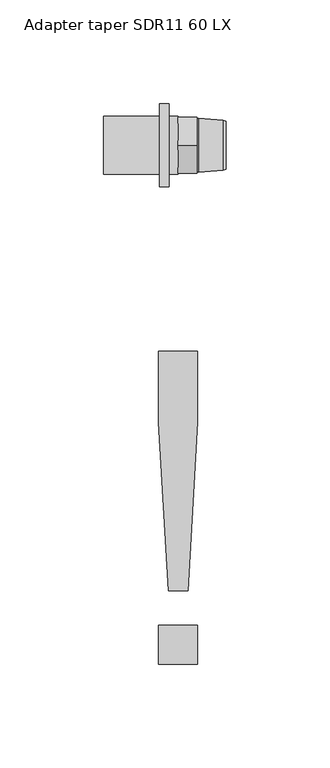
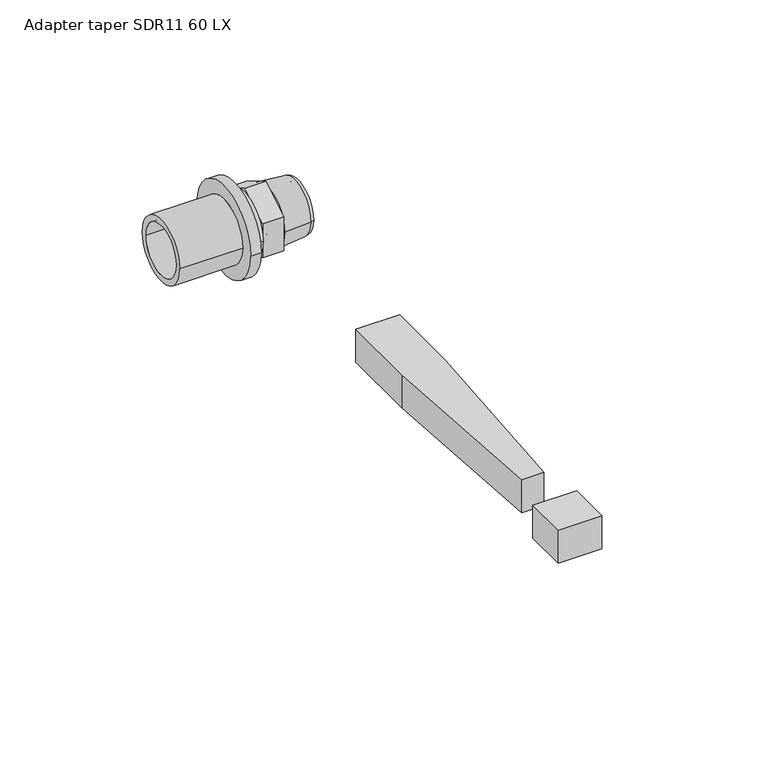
"""IFC4 building model written with IfcOpenShell, lengths in millimetres: pipe fitting geometry, Adapter taper SDR11 LX 60 Grad : Adapter taper SDR11 60 LX."""

from ifc_helpers import new_model, si_unit, frame, origin, origin_with_axes, place, context, project, spatial, polyline, circle_curve, outline, extrude, source, transform, mapped, element, save
from ifc_brep_helpers import plane_surface, cylinder_surface, revolved_surface, advanced_brep


def adapter_taper_sdr11_60_lx_681f6ff0(model_context):
    return source(origin(), model_context, "Body", "SolidModel", [
        extrude(outline(polyline([(-4.7088895, -214.6833285), (-9.4177791, -133.3446193), (-9.4177791, -99.3155348), (9.4177791, -99.3155348), (9.4177791, -133.3446193), (4.7088895, -214.6833285), (-4.7088895, -214.6833285)])), origin_with_axes(), (0.0, 0.0, 1.0), 15.0),
        extrude(outline(polyline([(-9.4177791, -250.0), (-9.4177791, -231.1644418), (9.4177791, -231.1644418), (9.4177791, -250.0), (-9.4177791, -250.0)])), origin_with_axes(), (0.0, 0.0, 1.0), 15.0),
        advanced_brep(
        [(-8.9, 13.95, 0.0), (-8.9, -13.95, 0.0), (-35.9, -13.95, 0.0), (-35.9, 13.95, 0.0), (-4.4, 20.0, 0.0), (-4.4, -20.0, 0.0), (-8.9, -20.0, 0.0), (-8.9, 20.0, 0.0), (0.0, 13.95, 0.0), (0.0, -13.95, 0.0), (-4.4, -13.95, 0.0), (-4.4, 13.95, 0.0), (-35.9, 11.2, 0.0), (-35.9, -11.2, 0.0), (0.0, -11.2, 0.0), (0.0, 11.2, 0.0)],
        [
            (0, 1, circle_curve(frame((-8.9, 0.0, 0.0), z_axis=(-1.0, 0.0, 0.0), x_axis=(0.0, -1.0, 0.0)), 13.95)),
            (1, 2),
            (2, 3, circle_curve(frame((-35.9, 0.0, 0.0), z_axis=(1.0, 0.0, 0.0), x_axis=(0.0, -1.0, 0.0)), 13.95)),
            (3, 0),
            (4, 5, circle_curve(frame((-4.4, 0.0, 0.0), z_axis=(-1.0, 0.0, 0.0), x_axis=(0.0, -1.0, 0.0)), 20.0)),
            (5, 6),
            (6, 7, circle_curve(frame((-8.9, 0.0, 0.0), z_axis=(1.0, 0.0, 0.0), x_axis=(0.0, -1.0, 0.0)), 20.0)),
            (7, 4),
            (8, 9, circle_curve(frame((0.0, 0.0, 0.0), z_axis=(-1.0, 0.0, 0.0), x_axis=(0.0, -1.0, 0.0)), 13.95)),
            (9, 10),
            (10, 11, circle_curve(frame((-4.4, 0.0, 0.0), z_axis=(1.0, 0.0, 0.0), x_axis=(0.0, -1.0, 0.0)), 13.95)),
            (11, 8),
            (12, 13, circle_curve(frame((-35.9, 0.0, 0.0), z_axis=(-1.0, 0.0, 0.0), x_axis=(0.0, -1.0, 0.0)), 11.2)),
            (13, 14),
            (14, 15, circle_curve(frame((0.0, 0.0, 0.0), z_axis=(1.0, 0.0, 0.0), x_axis=(0.0, -1.0, 0.0)), 11.2)),
            (15, 12),
            (2, 3, circle_curve(frame((-35.9, 0.0, 0.0), z_axis=(-1.0, 0.0, 0.0), x_axis=(0.0, 1.0, 0.0)), 13.95)),
            (12, 13, circle_curve(frame((-35.9, 0.0, 0.0), z_axis=(1.0, 0.0, 0.0), x_axis=(0.0, 1.0, 0.0)), 11.2)),
            (1, 0, circle_curve(frame((-8.9, 0.0, 0.0), z_axis=(-1.0, 0.0, 0.0), x_axis=(0.0, 1.0, 0.0)), 13.95)),
            (6, 7, circle_curve(frame((-8.9, 0.0, 0.0), z_axis=(-1.0, 0.0, 0.0), x_axis=(0.0, 1.0, 0.0)), 20.0)),
            (5, 4, circle_curve(frame((-4.4, 0.0, 0.0), z_axis=(-1.0, 0.0, 0.0), x_axis=(0.0, 1.0, 0.0)), 20.0)),
            (10, 11, circle_curve(frame((-4.4, 0.0, 0.0), z_axis=(-1.0, 0.0, 0.0), x_axis=(0.0, 1.0, 0.0)), 13.95)),
            (9, 8, circle_curve(frame((0.0, 0.0, 0.0), z_axis=(-1.0, 0.0, 0.0), x_axis=(0.0, 1.0, 0.0)), 13.95)),
            (14, 15, circle_curve(frame((0.0, 0.0, 0.0), z_axis=(-1.0, 0.0, 0.0), x_axis=(0.0, 1.0, 0.0)), 11.2)),
        ],
        [
            cylinder_surface(frame((0.0, 0.0, 0.0), z_axis=(1.0, 0.0, 0.0), x_axis=(0.0, -1.0, 0.0)), 13.95),
            cylinder_surface(frame((0.0, 0.0, 0.0), z_axis=(1.0, 0.0, 0.0), x_axis=(0.0, -1.0, 0.0)), 20.0),
            revolved_surface(polyline([(0.0, -11.2, 0.0), (-35.9, -11.2, 0.0)]), (0.0, 0.0, 0.0), (1.0, 0.0, 0.0)),
            plane_surface(frame((-35.9, 0.0, 0.0), z_axis=(-1.0, 0.0, 0.0), x_axis=(0.0, 1.0, 0.0))),
            cylinder_surface(frame((0.0, 0.0, 0.0), z_axis=(1.0, 0.0, 0.0), x_axis=(0.0, 1.0, 0.0)), 13.95),
            plane_surface(frame((-8.9, 0.0, 0.0), z_axis=(-1.0, 0.0, 0.0), x_axis=(0.0, 1.0, 0.0))),
            cylinder_surface(frame((0.0, 0.0, 0.0), z_axis=(1.0, 0.0, 0.0), x_axis=(0.0, 1.0, 0.0)), 20.0),
            plane_surface(frame((-4.4, 0.0, 0.0), z_axis=(1.0, 0.0, 0.0), x_axis=(0.0, 1.0, 0.0))),
            plane_surface(frame((0.0, 0.0, 0.0), z_axis=(1.0, 0.0, 0.0), x_axis=(0.0, 1.0, 0.0))),
            revolved_surface(polyline([(0.0, 11.2, 0.0), (-35.9, 11.2, 0.0)]), (0.0, 0.0, 0.0), (1.0, 0.0, 0.0)),
        ],
        [
            (0, [[1, 2, 3, 4]]),
            (1, [[5, 6, 7, 8]]),
            (0, [[9, 10, 11, 12]]),
            (2, [[13, 14, 15, 16]]),
            (3, [[17, -3], [18, -13]]),
            (4, [[19, -4, -17, -2]]),
            (5, [[20, -7], [-19, -1]]),
            (6, [[21, -8, -20, -6]]),
            (7, [[-21, -5], [22, -11]]),
            (4, [[23, -12, -22, -10]]),
            (8, [[-23, -9], [24, -15]]),
            (9, [[-18, -16, -24, -14]]),
        ],
    ),
        advanced_brep(
        [(10.2032803, 9.0, 0.0), (10.2032803, -9.0, 0.0), (23.1, -9.0, 0.0), (23.1, 9.0, 0.0), (9.1, 7.8967197, 0.0), (9.1, -7.8967197, 0.0), (9.8406902, 13.0, 0.0), (9.8406902, -13.0, 0.0), (9.1, -12.5, 0.0), (9.1, 12.5, 0.0), (21.6000007, 12.0, 0.0), (21.6000007, -12.0, 0.0), (23.1, 11.5, 0.0), (23.1, -11.5, 0.0)],
        [
            (0, 1, circle_curve(frame((10.2032803, 0.0, 0.0), z_axis=(-1.0, 0.0, 0.0), x_axis=(0.0, -1.0, 0.0)), 9.0)),
            (1, 2),
            (2, 3, circle_curve(frame((23.1, 0.0, 0.0), z_axis=(1.0, 0.0, 0.0), x_axis=(0.0, -1.0, 0.0)), 9.0)),
            (3, 0),
            (4, 5, circle_curve(frame((9.1, 0.0, 0.0), z_axis=(-1.0, 0.0, 0.0), x_axis=(0.0, -1.0, 0.0)), 7.8967197)),
            (5, 1),
            (0, 4),
            (6, 7, circle_curve(frame((9.8406902, 0.0, 0.0), z_axis=(-1.0, 0.0, 0.0), x_axis=(0.0, -1.0, 0.0)), 13.0)),
            (7, 8),
            (8, 9, circle_curve(frame((9.1, 0.0, 0.0), z_axis=(1.0, 0.0, 0.0), x_axis=(0.0, -1.0, 0.0)), 12.5)),
            (9, 6),
            (10, 11, circle_curve(frame((21.6000007, 0.0, 0.0), z_axis=(-1.0, 0.0, 0.0), x_axis=(0.0, -1.0, 0.0)), 12.0)),
            (11, 7),
            (6, 10),
            (12, 13, circle_curve(frame((23.1, 0.0, 0.0), z_axis=(-1.0, 0.0, 0.0), x_axis=(0.0, -1.0, 0.0)), 11.5)),
            (13, 11),
            (10, 12),
            (1, 0, circle_curve(frame((10.2032803, 0.0, 0.0), z_axis=(-1.0, 0.0, 0.0), x_axis=(0.0, 1.0, 0.0)), 9.0)),
            (3, 2, circle_curve(frame((23.1, 0.0, 0.0), z_axis=(1.0, 0.0, 0.0), x_axis=(0.0, 1.0, 0.0)), 9.0)),
            (5, 4, circle_curve(frame((9.1, 0.0, 0.0), z_axis=(-1.0, 0.0, 0.0), x_axis=(0.0, 1.0, 0.0)), 7.8967197)),
            (8, 9, circle_curve(frame((9.1, 0.0, 0.0), z_axis=(-1.0, 0.0, 0.0), x_axis=(0.0, 1.0, 0.0)), 12.5)),
            (7, 6, circle_curve(frame((9.8406902, 0.0, 0.0), z_axis=(-1.0, 0.0, 0.0), x_axis=(0.0, 1.0, 0.0)), 13.0)),
            (11, 10, circle_curve(frame((21.6000007, 0.0, 0.0), z_axis=(-1.0, 0.0, 0.0), x_axis=(0.0, 1.0, 0.0)), 12.0)),
            (13, 12, circle_curve(frame((23.1, 0.0, 0.0), z_axis=(-1.0, 0.0, 0.0), x_axis=(0.0, 1.0, 0.0)), 11.5)),
        ],
        [
            revolved_surface(polyline([(23.1, -9.0, 0.0), (10.2032803, -9.0, 0.0)]), (0.0, 0.0, 0.0), (1.0, 0.0, 0.0)),
            revolved_surface(polyline([(10.2032803, -9.0, 0.0), (9.1, -7.8967197, 0.0)]), (0.0, 0.0, 0.0), (1.0, 0.0, 0.0)),
            revolved_surface(polyline([(9.1, -12.5, 0.0), (9.8406902, -13.0, 0.0)]), (0.0, 0.0, 0.0), (1.0, 0.0, 0.0)),
            revolved_surface(polyline([(9.8406902, -13.0, 0.0), (21.6000007, -12.0, 0.0)]), (0.0, 0.0, 0.0), (1.0, 0.0, 0.0)),
            revolved_surface(polyline([(21.6000007, -12.0, 0.0), (23.1, -11.5, 0.0)]), (0.0, 0.0, 0.0), (1.0, 0.0, 0.0)),
            revolved_surface(polyline([(23.1, 9.0, 0.0), (10.2032803, 9.0, 0.0)]), (0.0, 0.0, 0.0), (1.0, 0.0, 0.0)),
            revolved_surface(polyline([(10.2032803, 9.0, 0.0), (9.1, 7.8967197, 0.0)]), (0.0, 0.0, 0.0), (1.0, 0.0, 0.0)),
            plane_surface(frame((9.1, 0.0, 0.0), z_axis=(-1.0, 0.0, 0.0), x_axis=(0.0, 1.0, 0.0))),
            revolved_surface(polyline([(9.1, 12.5, 0.0), (9.8406902, 13.0, 0.0)]), (0.0, 0.0, 0.0), (1.0, 0.0, 0.0)),
            revolved_surface(polyline([(9.8406902, 13.0, 0.0), (21.6000007, 12.0, 0.0)]), (0.0, 0.0, 0.0), (1.0, 0.0, 0.0)),
            revolved_surface(polyline([(21.6000007, 12.0, 0.0), (23.1, 11.5, 0.0)]), (0.0, 0.0, 0.0), (1.0, 0.0, 0.0)),
            plane_surface(frame((23.1, 0.0, 0.0), z_axis=(1.0, 0.0, 0.0), x_axis=(0.0, 1.0, 0.0))),
        ],
        [
            (0, [[1, 2, 3, 4]]),
            (1, [[5, 6, -1, 7]]),
            (2, [[8, 9, 10, 11]]),
            (3, [[12, 13, -8, 14]]),
            (4, [[15, 16, -12, 17]]),
            (5, [[18, -4, 19, -2]]),
            (6, [[20, -7, -18, -6]]),
            (7, [[21, -10], [-20, -5]]),
            (8, [[22, -11, -21, -9]]),
            (9, [[23, -14, -22, -13]]),
            (10, [[24, -17, -23, -16]]),
            (11, [[-24, -15], [-19, -3]]),
        ],
    ),
        extrude(outline(polyline([(-13.5, 7.7942286), (0.0, 15.5884573), (13.5, 7.7942286), (13.5, -7.7942286), (0.0, -15.5884573), (-13.5, -7.7942286), (-13.5, 7.7942286)])), frame((0.0, 0.0, 0.0), z_axis=(1.0, 0.0, 0.0), x_axis=(0.0, 1.0, 0.0)), (0.0, 0.0, 1.0), 9.1),
    ])


if __name__ == "__main__":
    model = new_model("IFC4")
    model_context = context("Model", 3, world=origin())
    ifc_project = project(units=[si_unit("LENGTHUNIT", "METRE", prefix="MILLI")], contexts=[model_context])
    site = spatial("IfcSite", under=ifc_project)
    building = spatial("IfcBuilding", under=site)
    placement = place(None, origin())
    adapter_taper_sdr11_60_lx_shape = adapter_taper_sdr11_60_lx_681f6ff0(model_context)
    element("IfcPipeFitting", 1, ObjectType="Adapter taper SDR11 LX 60 Grad : Adapter taper SDR11 60 LX", at=placement, inside=building, context=model_context, shape_type="MappedRepresentation", body=[
        mapped(adapter_taper_sdr11_60_lx_shape, transform((0.0, 0.0, 0.0), x_axis=(1.0, 0.0, 0.0), y_axis=(0.0, 1.0, 0.0), z_axis=(0.0, 0.0, 1.0))),
    ])
    save(model, "model.ifc")
